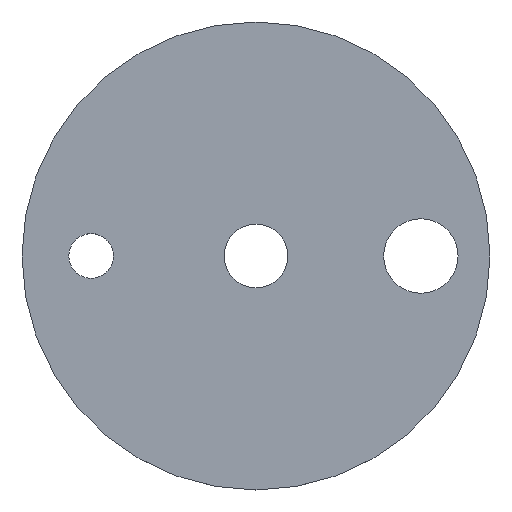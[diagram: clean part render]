
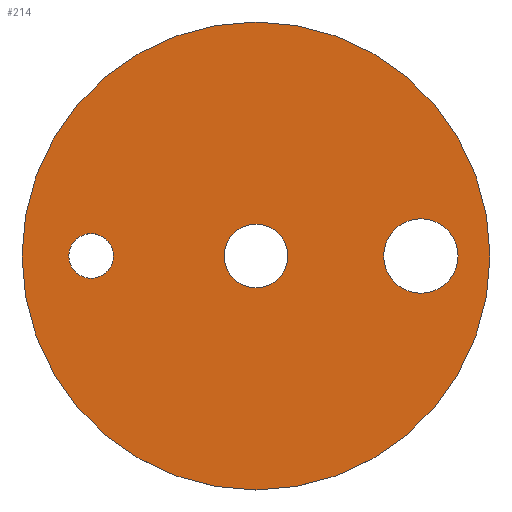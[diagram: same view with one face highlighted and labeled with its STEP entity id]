
A CAD part, top view. The second image highlights one B-rep face of the part: STEP entity #214.
In plain terms, the highlighted planar face has unit normal (0, 0, 1).
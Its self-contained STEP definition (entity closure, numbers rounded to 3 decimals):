
#24 = VERTEX_POINT('',#25);
#25 = CARTESIAN_POINT('',(22.,0.,280.6));
#32 = CYLINDRICAL_SURFACE('',#33,22.);
#33 = AXIS2_PLACEMENT_3D('',#34,#35,#36);
#34 = CARTESIAN_POINT('',(0.,0.,280.));
#35 = DIRECTION('',(-0.,-0.,-1.));
#36 = DIRECTION('',(1.,0.,0.));
#51 = EDGE_CURVE('',#24,#24,#52,.T.);
#52 = SURFACE_CURVE('',#53,(#58,#65),.PCURVE_S1.);
#53 = CIRCLE('',#54,22.);
#54 = AXIS2_PLACEMENT_3D('',#55,#56,#57);
#55 = CARTESIAN_POINT('',(0.,0.,280.6));
#56 = DIRECTION('',(0.,0.,1.));
#57 = DIRECTION('',(1.,0.,0.));
#58 = PCURVE('',#32,#59);
#59 = DEFINITIONAL_REPRESENTATION('',(#60),#64);
#60 = LINE('',#61,#62);
#61 = CARTESIAN_POINT('',(-0.,-0.6));
#62 = VECTOR('',#63,1.);
#63 = DIRECTION('',(-1.,0.));
#64 = ( GEOMETRIC_REPRESENTATION_CONTEXT(2) 
PARAMETRIC_REPRESENTATION_CONTEXT() REPRESENTATION_CONTEXT('2D SPACE',''
  ) );
#65 = PCURVE('',#66,#71);
#66 = PLANE('',#67);
#67 = AXIS2_PLACEMENT_3D('',#68,#69,#70);
#68 = CARTESIAN_POINT('',(0.,0.,280.6)
  );
#69 = DIRECTION('',(0.,0.,1.));
#70 = DIRECTION('',(1.,0.,-0.));
#71 = DEFINITIONAL_REPRESENTATION('',(#72),#76);
#72 = CIRCLE('',#73,22.);
#73 = AXIS2_PLACEMENT_2D('',#74,#75);
#74 = CARTESIAN_POINT('',(0.,0.));
#75 = DIRECTION('',(1.,0.));
#76 = ( GEOMETRIC_REPRESENTATION_CONTEXT(2) 
PARAMETRIC_REPRESENTATION_CONTEXT() REPRESENTATION_CONTEXT('2D SPACE',''
  ) );
#133 = CYLINDRICAL_SURFACE('',#134,2.1);
#134 = AXIS2_PLACEMENT_3D('',#135,#136,#137);
#135 = CARTESIAN_POINT('',(-15.5,0.,279.));
#136 = DIRECTION('',(-0.,-0.,-1.));
#137 = DIRECTION('',(1.,0.,0.));
#168 = CYLINDRICAL_SURFACE('',#169,3.);
#169 = AXIS2_PLACEMENT_3D('',#170,#171,#172);
#170 = CARTESIAN_POINT('',(0.,0.,279.));
#171 = DIRECTION('',(-0.,-0.,-1.));
#172 = DIRECTION('',(1.,0.,0.));
#203 = CYLINDRICAL_SURFACE('',#204,3.5);
#204 = AXIS2_PLACEMENT_3D('',#205,#206,#207);
#205 = CARTESIAN_POINT('',(15.5,0.,279.));
#206 = DIRECTION('',(-0.,-0.,-1.));
#207 = DIRECTION('',(1.,0.,0.));
#214 = ADVANCED_FACE('',(#215,#218,#248,#278),#66,.T.);
#215 = FACE_BOUND('',#216,.T.);
#216 = EDGE_LOOP('',(#217));
#217 = ORIENTED_EDGE('',*,*,#51,.T.);
#218 = FACE_BOUND('',#219,.T.);
#219 = EDGE_LOOP('',(#220));
#220 = ORIENTED_EDGE('',*,*,#221,.T.);
#221 = EDGE_CURVE('',#222,#222,#224,.T.);
#222 = VERTEX_POINT('',#223);
#223 = CARTESIAN_POINT('',(-13.4,0.,280.6));
#224 = SURFACE_CURVE('',#225,(#230,#241),.PCURVE_S1.);
#225 = CIRCLE('',#226,2.1);
#226 = AXIS2_PLACEMENT_3D('',#227,#228,#229);
#227 = CARTESIAN_POINT('',(-15.5,0.,280.6));
#228 = DIRECTION('',(0.,0.,-1.));
#229 = DIRECTION('',(1.,0.,0.));
#230 = PCURVE('',#66,#231);
#231 = DEFINITIONAL_REPRESENTATION('',(#232),#240);
#232 = ( BOUNDED_CURVE() B_SPLINE_CURVE(2,(#233,#234,#235,#236,#237,#238
,#239),.UNSPECIFIED.,.T.,.F.) B_SPLINE_CURVE_WITH_KNOTS((1,2,2,2,2,1),(
    -2.094,0.,2.094,4.189,6.283,
8.378),.UNSPECIFIED.) CURVE() GEOMETRIC_REPRESENTATION_ITEM() 
RATIONAL_B_SPLINE_CURVE((1.,0.5,1.,0.5,1.,0.5,1.)) REPRESENTATION_ITEM(
  '') );
#233 = CARTESIAN_POINT('',(-13.4,0.));
#234 = CARTESIAN_POINT('',(-13.4,-3.637));
#235 = CARTESIAN_POINT('',(-16.55,-1.819));
#236 = CARTESIAN_POINT('',(-19.7,0.));
#237 = CARTESIAN_POINT('',(-16.55,1.819));
#238 = CARTESIAN_POINT('',(-13.4,3.637));
#239 = CARTESIAN_POINT('',(-13.4,0.));
#240 = ( GEOMETRIC_REPRESENTATION_CONTEXT(2) 
PARAMETRIC_REPRESENTATION_CONTEXT() REPRESENTATION_CONTEXT('2D SPACE',''
  ) );
#241 = PCURVE('',#133,#242);
#242 = DEFINITIONAL_REPRESENTATION('',(#243),#247);
#243 = LINE('',#244,#245);
#244 = CARTESIAN_POINT('',(-6.283,-1.6));
#245 = VECTOR('',#246,1.);
#246 = DIRECTION('',(1.,-0.));
#247 = ( GEOMETRIC_REPRESENTATION_CONTEXT(2) 
PARAMETRIC_REPRESENTATION_CONTEXT() REPRESENTATION_CONTEXT('2D SPACE',''
  ) );
#248 = FACE_BOUND('',#249,.T.);
#249 = EDGE_LOOP('',(#250));
#250 = ORIENTED_EDGE('',*,*,#251,.T.);
#251 = EDGE_CURVE('',#252,#252,#254,.T.);
#252 = VERTEX_POINT('',#253);
#253 = CARTESIAN_POINT('',(3.,0.,280.6));
#254 = SURFACE_CURVE('',#255,(#260,#271),.PCURVE_S1.);
#255 = CIRCLE('',#256,3.);
#256 = AXIS2_PLACEMENT_3D('',#257,#258,#259);
#257 = CARTESIAN_POINT('',(0.,0.,280.6));
#258 = DIRECTION('',(0.,0.,-1.));
#259 = DIRECTION('',(1.,0.,0.));
#260 = PCURVE('',#66,#261);
#261 = DEFINITIONAL_REPRESENTATION('',(#262),#270);
#262 = ( BOUNDED_CURVE() B_SPLINE_CURVE(2,(#263,#264,#265,#266,#267,#268
,#269),.UNSPECIFIED.,.T.,.F.) B_SPLINE_CURVE_WITH_KNOTS((1,2,2,2,2,1),(
    -2.094,0.,2.094,4.189,6.283,
8.378),.UNSPECIFIED.) CURVE() GEOMETRIC_REPRESENTATION_ITEM() 
RATIONAL_B_SPLINE_CURVE((1.,0.5,1.,0.5,1.,0.5,1.)) REPRESENTATION_ITEM(
  '') );
#263 = CARTESIAN_POINT('',(3.,0.));
#264 = CARTESIAN_POINT('',(3.,-5.196));
#265 = CARTESIAN_POINT('',(-1.5,-2.598));
#266 = CARTESIAN_POINT('',(-6.,0.));
#267 = CARTESIAN_POINT('',(-1.5,2.598));
#268 = CARTESIAN_POINT('',(3.,5.196));
#269 = CARTESIAN_POINT('',(3.,0.));
#270 = ( GEOMETRIC_REPRESENTATION_CONTEXT(2) 
PARAMETRIC_REPRESENTATION_CONTEXT() REPRESENTATION_CONTEXT('2D SPACE',''
  ) );
#271 = PCURVE('',#168,#272);
#272 = DEFINITIONAL_REPRESENTATION('',(#273),#277);
#273 = LINE('',#274,#275);
#274 = CARTESIAN_POINT('',(-6.283,-1.6));
#275 = VECTOR('',#276,1.);
#276 = DIRECTION('',(1.,-0.));
#277 = ( GEOMETRIC_REPRESENTATION_CONTEXT(2) 
PARAMETRIC_REPRESENTATION_CONTEXT() REPRESENTATION_CONTEXT('2D SPACE',''
  ) );
#278 = FACE_BOUND('',#279,.T.);
#279 = EDGE_LOOP('',(#280));
#280 = ORIENTED_EDGE('',*,*,#281,.T.);
#281 = EDGE_CURVE('',#282,#282,#284,.T.);
#282 = VERTEX_POINT('',#283);
#283 = CARTESIAN_POINT('',(19.,0.,280.6));
#284 = SURFACE_CURVE('',#285,(#290,#301),.PCURVE_S1.);
#285 = CIRCLE('',#286,3.5);
#286 = AXIS2_PLACEMENT_3D('',#287,#288,#289);
#287 = CARTESIAN_POINT('',(15.5,0.,280.6));
#288 = DIRECTION('',(0.,0.,-1.));
#289 = DIRECTION('',(1.,0.,0.));
#290 = PCURVE('',#66,#291);
#291 = DEFINITIONAL_REPRESENTATION('',(#292),#300);
#292 = ( BOUNDED_CURVE() B_SPLINE_CURVE(2,(#293,#294,#295,#296,#297,#298
,#299),.UNSPECIFIED.,.T.,.F.) B_SPLINE_CURVE_WITH_KNOTS((1,2,2,2,2,1),(
    -2.094,0.,2.094,4.189,6.283,
8.378),.UNSPECIFIED.) CURVE() GEOMETRIC_REPRESENTATION_ITEM() 
RATIONAL_B_SPLINE_CURVE((1.,0.5,1.,0.5,1.,0.5,1.)) REPRESENTATION_ITEM(
  '') );
#293 = CARTESIAN_POINT('',(19.,0.));
#294 = CARTESIAN_POINT('',(19.,-6.062));
#295 = CARTESIAN_POINT('',(13.75,-3.031));
#296 = CARTESIAN_POINT('',(8.5,0.));
#297 = CARTESIAN_POINT('',(13.75,3.031));
#298 = CARTESIAN_POINT('',(19.,6.062));
#299 = CARTESIAN_POINT('',(19.,0.));
#300 = ( GEOMETRIC_REPRESENTATION_CONTEXT(2) 
PARAMETRIC_REPRESENTATION_CONTEXT() REPRESENTATION_CONTEXT('2D SPACE',''
  ) );
#301 = PCURVE('',#203,#302);
#302 = DEFINITIONAL_REPRESENTATION('',(#303),#307);
#303 = LINE('',#304,#305);
#304 = CARTESIAN_POINT('',(-6.283,-1.6));
#305 = VECTOR('',#306,1.);
#306 = DIRECTION('',(1.,-0.));
#307 = ( GEOMETRIC_REPRESENTATION_CONTEXT(2) 
PARAMETRIC_REPRESENTATION_CONTEXT() REPRESENTATION_CONTEXT('2D SPACE',''
  ) );
